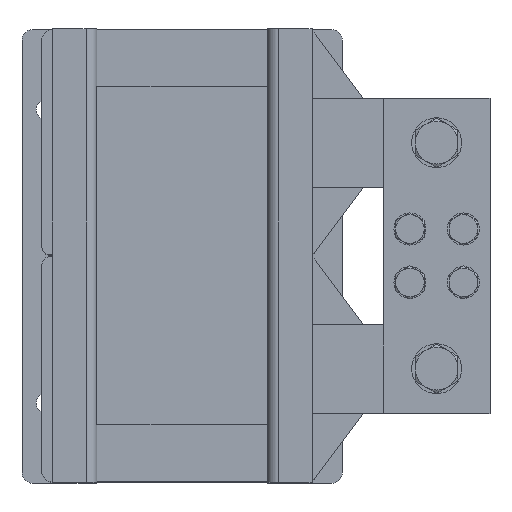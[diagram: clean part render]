
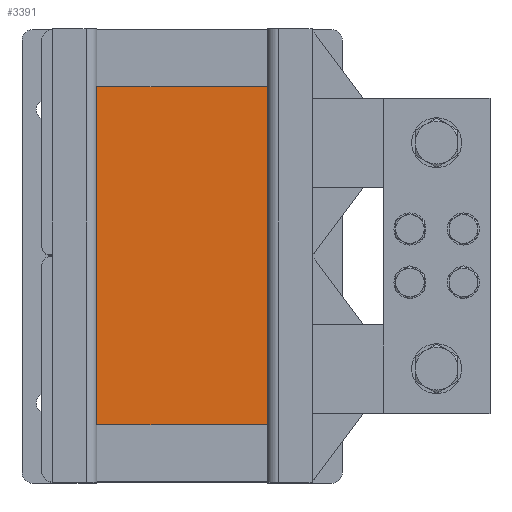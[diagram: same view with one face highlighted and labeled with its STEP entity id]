
A CAD part, top view. The second image highlights one B-rep face of the part: STEP entity #3391.
In plain terms, the highlighted planar face has unit normal (0, 0, 1).
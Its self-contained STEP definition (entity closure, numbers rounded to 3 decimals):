
#3391=ADVANCED_FACE('',(#4960),#4962,.T.);
#4960=FACE_BOUND('',#4961,.T.);
#4961=EDGE_LOOP('',(#7053,#7054,#7055,#7056));
#4962=PLANE('',#4963);
#4963=AXIS2_PLACEMENT_3D('',#4964,#4965,#4966);
#4964=CARTESIAN_POINT('',(0.,0.,285.));
#4965=DIRECTION('',(0.,0.,1.));
#4966=DIRECTION('',(-1.,0.,0.));
#7053=ORIENTED_EDGE('',*,*,#8118,.T.);
#7054=ORIENTED_EDGE('',*,*,#8016,.T.);
#7055=ORIENTED_EDGE('',*,*,#8117,.T.);
#7056=ORIENTED_EDGE('',*,*,#8024,.T.);
#8016=EDGE_CURVE('',#8804,#8802,#8805,.T.);
#8024=EDGE_CURVE('',#8820,#8818,#8821,.T.);
#8117=EDGE_CURVE('',#8802,#8820,#8981,.T.);
#8118=EDGE_CURVE('',#8818,#8804,#8982,.T.);
#8802=VERTEX_POINT('',#10346);
#8804=VERTEX_POINT('',#10350);
#8805=LINE('',#10351,#10352);
#8818=VERTEX_POINT('',#10380);
#8820=VERTEX_POINT('',#10384);
#8821=LINE('',#10385,#10386);
#8981=LINE('',#10757,#10758);
#8982=LINE('',#10760,#10761);
#10346=CARTESIAN_POINT('',(48.,95.,285.));
#10350=CARTESIAN_POINT('',(48.,-95.,285.));
#10351=CARTESIAN_POINT('',(48.,-95.,285.));
#10352=VECTOR('',#10353,1.);
#10353=DIRECTION('',(0.,1.,0.));
#10380=CARTESIAN_POINT('',(-48.,-95.,285.));
#10384=CARTESIAN_POINT('',(-48.,95.,285.));
#10385=CARTESIAN_POINT('',(-48.,95.,285.));
#10386=VECTOR('',#10387,1.);
#10387=DIRECTION('',(0.,-1.,0.));
#10757=CARTESIAN_POINT('',(48.,95.,285.));
#10758=VECTOR('',#10759,1.);
#10759=DIRECTION('',(-1.,0.,0.));
#10760=CARTESIAN_POINT('',(-48.,-95.,285.));
#10761=VECTOR('',#10762,1.);
#10762=DIRECTION('',(1.,0.,0.));
